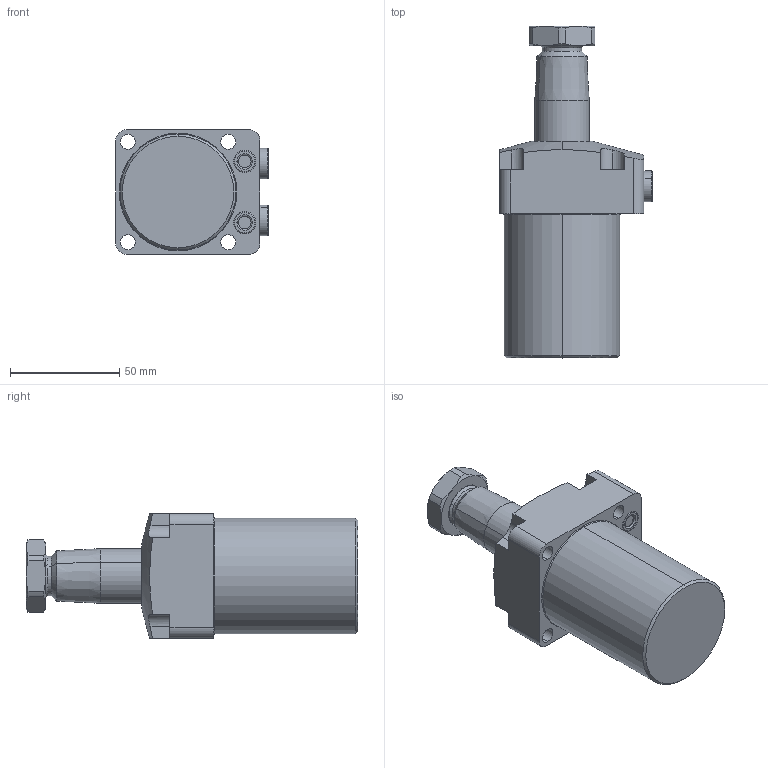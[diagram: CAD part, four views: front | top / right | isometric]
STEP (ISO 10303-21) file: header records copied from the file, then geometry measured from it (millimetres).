
FILE_DESCRIPTION(/* description */ (''),/* implementation_level */ '2;1');
FILE_NAME(/* name */ 'TRC06-RN30.stp',/* time_stamp */ '2025-01-04T11:24:57+08:00',/* author */ (''),/* organization */ (''),/* preprocessor_version */ 'ST-DEVELOPER v16.7',/* originating_system */ 'SIEMENS PLM Software NX 12.0',/* authorisation */ '');
FILE_SCHEMA (('AUTOMOTIVE_DESIGN { 1 0 10303 214 3 1 1 1 }'));
Length unit declared in the file: millimetre
Products named in the file (5): TRC06-RN30-04; TRC06-RN30-03; TRC06-RN30-02; TRC06-RN30-01; CTU06-RN30_step
Assembly tree (5 placements, depth 2):
  CTU06-RN30_step
    TRC06-RN30-01
    TRC06-RN30-02
    TRC06-RN30-03
    TRC06-RN30-04  x2
Bounding box: 69.8 x 151.8 x 57 mm (x, y, z)
Volume: 270423.4 mm3; surface area: 38123.9 mm2
Topology: 5 solids, 7 shells, 203 faces, 465 edges, 288 vertices
Faces by surface type: cylinder 73, plane 67, cone 40, torus 22, sphere 1
Entity records: 5410 total; most frequent: CARTESIAN_POINT 1086, DIRECTION 938, ORIENTED_EDGE 836, EDGE_CURVE 418, AXIS2_PLACEMENT_3D 386, VERTEX_POINT 260, EDGE_LOOP 206, CIRCLE 199
